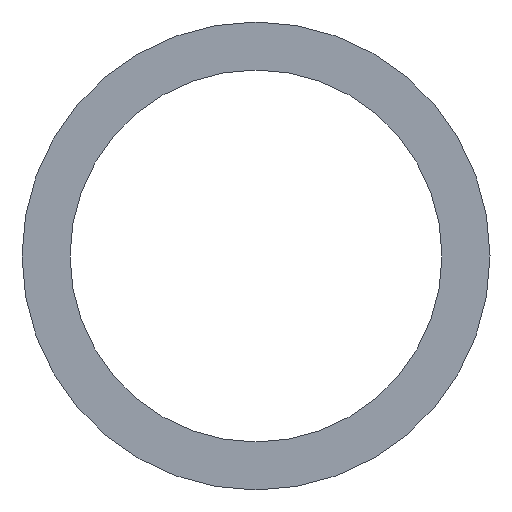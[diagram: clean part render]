
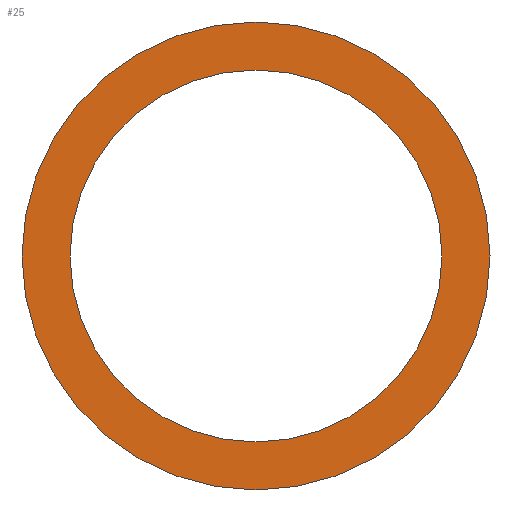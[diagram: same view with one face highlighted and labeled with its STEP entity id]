
A CAD part, front view. The second image highlights one B-rep face of the part: STEP entity #25.
In plain terms, the highlighted planar face has unit normal (0, -1, 0).
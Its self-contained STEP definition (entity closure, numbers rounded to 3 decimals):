
#19=FACE_BOUND('',#37,.F.);
#21=PLANE('',#154);
#25=ADVANCED_FACE('',(#19,#31),#21,.T.);
#31=FACE_OUTER_BOUND('',#38,.F.);
#37=EDGE_LOOP('',(#51,#52));
#38=EDGE_LOOP('',(#53,#54));
#51=ORIENTED_EDGE('',*,*,#95,.T.);
#52=ORIENTED_EDGE('',*,*,#87,.T.);
#53=ORIENTED_EDGE('',*,*,#98,.F.);
#54=ORIENTED_EDGE('',*,*,#90,.F.);
#87=EDGE_CURVE('',#114,#113,#99,.T.);
#90=EDGE_CURVE('',#108,#107,#102,.T.);
#95=EDGE_CURVE('',#113,#114,#103,.T.);
#98=EDGE_CURVE('',#107,#108,#106,.T.);
#99=CIRCLE('',#144,3.1);
#102=CIRCLE('',#147,3.9);
#103=CIRCLE('',#148,3.1);
#106=CIRCLE('',#151,3.9);
#107=VERTEX_POINT('',#202);
#108=VERTEX_POINT('',#203);
#113=VERTEX_POINT('',#208);
#114=VERTEX_POINT('',#209);
#144=AXIS2_PLACEMENT_3D('',#210,#164,#165);
#147=AXIS2_PLACEMENT_3D('',#213,#170,#171);
#148=AXIS2_PLACEMENT_3D('',#218,#176,#177);
#151=AXIS2_PLACEMENT_3D('',#221,#182,#183);
#154=AXIS2_PLACEMENT_3D('',#224,#188,#189);
#164=DIRECTION('',(0.,-1.,0.));
#165=DIRECTION('',(0.,0.,1.));
#170=DIRECTION('',(0.,-1.,0.));
#171=DIRECTION('',(0.,0.,1.));
#176=DIRECTION('',(0.,-1.,0.));
#177=DIRECTION('',(0.,0.,-1.));
#182=DIRECTION('',(0.,-1.,0.));
#183=DIRECTION('',(0.,0.,-1.));
#188=DIRECTION('',(0.,-1.,0.));
#189=DIRECTION('',(1.,0.,0.));
#202=CARTESIAN_POINT('',(184.046,-47.558,48.9));
#203=CARTESIAN_POINT('',(184.046,-47.558,56.7));
#208=CARTESIAN_POINT('',(184.046,-47.558,49.7));
#209=CARTESIAN_POINT('',(184.046,-47.558,55.9));
#210=CARTESIAN_POINT('',(184.046,-47.558,52.8));
#213=CARTESIAN_POINT('',(184.046,-47.558,52.8));
#218=CARTESIAN_POINT('',(184.046,-47.558,52.8));
#221=CARTESIAN_POINT('',(184.046,-47.558,52.8));
#224=CARTESIAN_POINT('',(180.068,-47.558,48.822));
